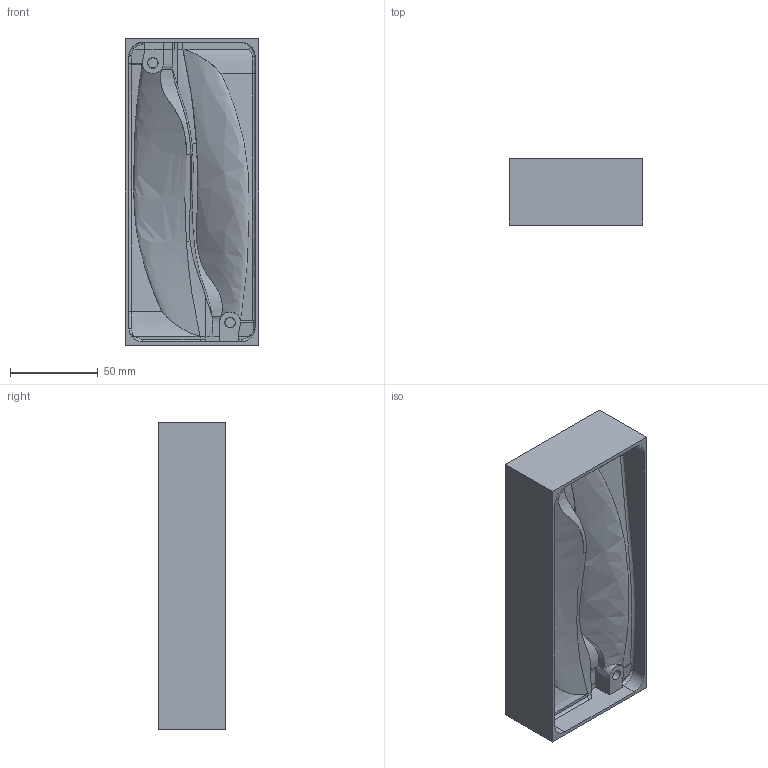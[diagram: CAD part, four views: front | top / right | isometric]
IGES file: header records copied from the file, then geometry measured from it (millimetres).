
Global section: file name: mould12 v26; native system: unknown; preprocessor: unknown; author: carlZMG6P; organization: unknown; date: 20180530.143356; units: millimetre
Bounding box: 76 x 38 x 175 mm (x, y, z)
Volume: 122859.3 mm3; surface area: 67352.3 mm2
Topology: 1 solids, 1 shells, 169 faces, 445 edges, 278 vertices
Faces by surface type: bspline 169
